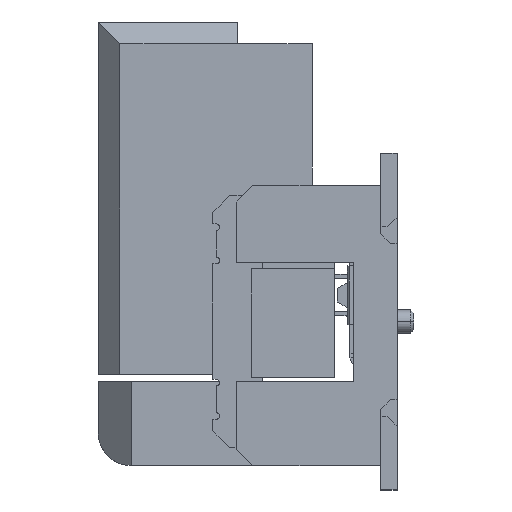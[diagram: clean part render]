
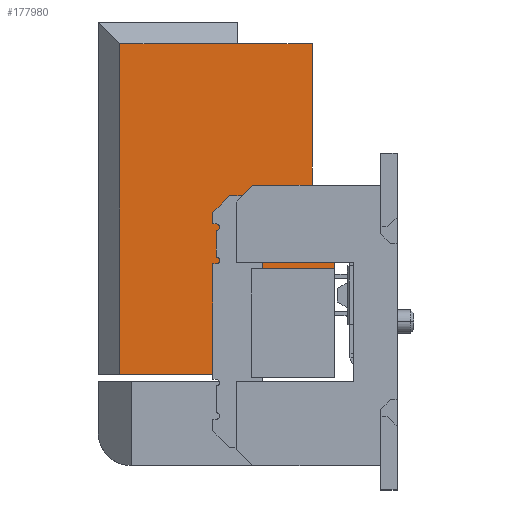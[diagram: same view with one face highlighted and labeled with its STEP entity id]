
A CAD part, left-side view. The second image highlights one B-rep face of the part: STEP entity #177980.
In plain terms, the highlighted planar face has unit normal (-1, 0, 0) as drawn and (1, 0, 0) by its records, which use the part's own axes.
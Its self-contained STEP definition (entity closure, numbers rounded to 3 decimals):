
#132650=CARTESIAN_POINT('',(7.01,12.71,
4.8));
#132660=VERTEX_POINT('',#132650);
#142540=CARTESIAN_POINT('',(7.01,2.75,
8.35));
#142550=VERTEX_POINT('',#142540);
#142580=CARTESIAN_POINT('',(7.01,2.75,
9.));
#142590=DIRECTION('',(0.,0.,-1.));
#142600=VECTOR('',#142590,1.);
#142610=LINE('',#142580,#142600);
#142620=CARTESIAN_POINT('',(7.01,2.75,
4.4));
#142630=VERTEX_POINT('',#142620);
#142640=EDGE_CURVE('',#142550,#142630,#142610,.T.);
#177300=CARTESIAN_POINT('',(7.01,2.75,
4.4));
#177310=DIRECTION('',(1.,0.,-0.));
#177320=DIRECTION('',(0.,0.,1.));
#177330=AXIS2_PLACEMENT_3D('',#177300,#177310,#177320);
#177340=PLANE('',#177330);
#177350=CARTESIAN_POINT('',(7.01,8.055,
8.35));
#177360=DIRECTION('',(0.,1.,0.));
#177370=VECTOR('',#177360,1.);
#177380=LINE('',#177350,#177370);
#177390=CARTESIAN_POINT('',(7.01,12.71,
8.35));
#177400=VERTEX_POINT('',#177390);
#177410=EDGE_CURVE('',#142550,#177400,#177380,.T.);
#177420=ORIENTED_EDGE('',*,*,#177410,.F.);
#177430=CARTESIAN_POINT('',(7.01,12.71,
6.9));
#177440=DIRECTION('',(0.,0.,-1.));
#177450=VECTOR('',#177440,1.);
#177460=LINE('',#177430,#177450);
#177470=EDGE_CURVE('',#177400,#132660,#177460,.T.);
#177480=ORIENTED_EDGE('',*,*,#177470,.F.);
#177490=CARTESIAN_POINT('',(7.01,12.71,
1.9));
#177500=DIRECTION('',(0.,0.,1.));
#177510=VECTOR('',#177500,1.);
#177520=LINE('',#177490,#177510);
#177530=CARTESIAN_POINT('',(7.01,12.71,
2.56));
#177540=VERTEX_POINT('',#177530);
#177550=EDGE_CURVE('',#177540,#132660,#177520,.T.);
#177560=ORIENTED_EDGE('',*,*,#177550,.T.);
#177570=CARTESIAN_POINT('',(7.01,2.75,
2.56));
#177580=DIRECTION('',(0.,-1.,0.));
#177590=VECTOR('',#177580,1.);
#177600=LINE('',#177570,#177590);
#177610=CARTESIAN_POINT('',(7.01,8.33,
2.56));
#177620=VERTEX_POINT('',#177610);
#177630=EDGE_CURVE('',#177540,#177620,#177600,.T.);
#177640=ORIENTED_EDGE('',*,*,#177630,.F.);
#177650=CARTESIAN_POINT('',(7.01,8.33,
1.9));
#177660=DIRECTION('',(0.,0.,-1.));
#177670=VECTOR('',#177660,1.);
#177680=LINE('',#177650,#177670);
#177690=CARTESIAN_POINT('',(7.01,8.33,
1.9));
#177700=VERTEX_POINT('',#177690);
#177710=EDGE_CURVE('',#177620,#177700,#177680,.T.);
#177720=ORIENTED_EDGE('',*,*,#177710,.F.);
#177730=CARTESIAN_POINT('',(7.01,2.75,
1.9));
#177740=DIRECTION('',(0.,1.,0.));
#177750=VECTOR('',#177740,1.);
#177760=LINE('',#177730,#177750);
#177770=CARTESIAN_POINT('',(7.01,5.93,
1.9));
#177780=VERTEX_POINT('',#177770);
#177790=EDGE_CURVE('',#177780,#177700,#177760,.T.);
#177800=ORIENTED_EDGE('',*,*,#177790,.T.);
#177810=CARTESIAN_POINT('',(7.01,5.93,
1.9));
#177820=DIRECTION('',(0.,0.,1.));
#177830=VECTOR('',#177820,1.);
#177840=LINE('',#177810,#177830);
#177850=CARTESIAN_POINT('',(7.01,5.93,
4.4));
#177860=VERTEX_POINT('',#177850);
#177870=EDGE_CURVE('',#177780,#177860,#177840,.T.);
#177880=ORIENTED_EDGE('',*,*,#177870,.F.);
#177890=CARTESIAN_POINT('',(7.01,2.75,
4.4));
#177900=DIRECTION('',(0.,1.,0.));
#177910=VECTOR('',#177900,1.);
#177920=LINE('',#177890,#177910);
#177930=EDGE_CURVE('',#142630,#177860,#177920,.T.);
#177940=ORIENTED_EDGE('',*,*,#177930,.T.);
#177950=ORIENTED_EDGE('',*,*,#142640,.T.);
#177960=EDGE_LOOP('',(#177950,#177940,#177880,#177800,#177720,#177640,
#177560,#177480,#177420));
#177970=FACE_OUTER_BOUND('',#177960,.T.);
#177980=ADVANCED_FACE('',(#177970),#177340,.T.);
